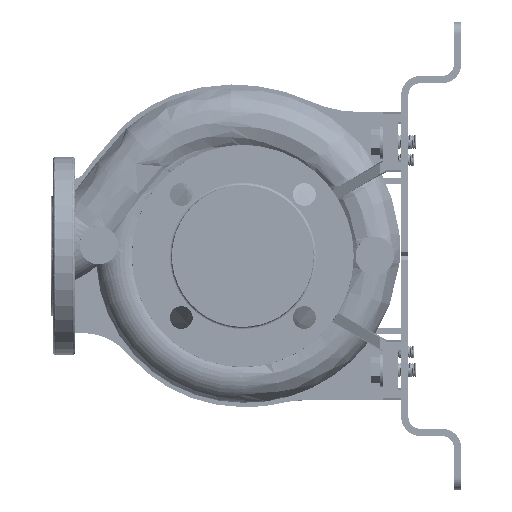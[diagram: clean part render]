
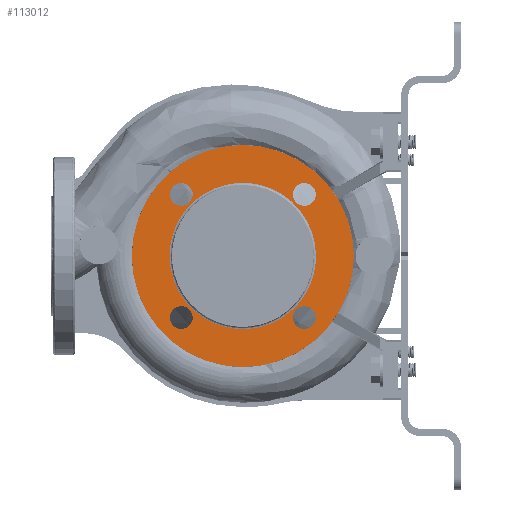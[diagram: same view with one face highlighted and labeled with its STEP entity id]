
A CAD part, left-side view. The second image highlights one B-rep face of the part: STEP entity #113012.
In plain terms, the highlighted planar face has unit normal (-1, 0, 0).
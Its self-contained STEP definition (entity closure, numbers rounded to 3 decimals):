
#1145 = CARTESIAN_POINT ( 'NONE',  ( -35.097, 159.44, 121.134 ) ) ;
#5667 = DIRECTION ( 'NONE',  ( 0., 0., 1. ) ) ;
#11057 = CARTESIAN_POINT ( 'NONE',  ( -35.097, 4.83, 149.524 ) ) ;
#11136 = CARTESIAN_POINT ( 'NONE',  ( -35.097, 47.175, 191.869 ) ) ;
#12019 = PLANE ( 'NONE',  #127718 ) ;
#13544 = EDGE_CURVE ( 'NONE', #176462, #171194, #168743, .T. ) ;
#15007 = VERTEX_POINT ( 'NONE', #26395 ) ;
#15006 = DIRECTION ( 'NONE',  ( 0., 0., 1. ) ) ;
#18623 = EDGE_CURVE ( 'NONE', #177413, #123810, #33420, .T. ) ;
#21295 = DIRECTION ( 'NONE',  ( -1., 0., 0. ) ) ;
#23398 = CARTESIAN_POINT ( 'NONE',  ( -35.097, 47.175, 294.4 ) ) ;
#23610 = CIRCLE ( 'NONE', #29788, 92.5 ) ;
#23774 = EDGE_LOOP ( 'NONE', ( #167048, #160127 ) ) ;
#25222 = CIRCLE ( 'NONE', #65606, 92.5 ) ;
#26223 = CARTESIAN_POINT ( 'NONE',  ( -35.097, 149.705, 182.369 ) ) ;
#26395 = CARTESIAN_POINT ( 'NONE',  ( -35.097, 37.44, 243.134 ) ) ;
#29502 = CARTESIAN_POINT ( 'NONE',  ( -35.097, 159.44, 243.134 ) ) ;
#29788 = AXIS2_PLACEMENT_3D ( 'NONE', #139458, #21295, #5667 ) ;
#30030 = EDGE_CURVE ( 'NONE', #141294, #175882, #23610, .T. ) ;
#30798 =( BOUNDED_CURVE ( )  B_SPLINE_CURVE ( 3, ( #90875, #31306, #104554, #164180 ),
 .UNSPECIFIED., .F., .F. ) 
 B_SPLINE_CURVE_WITH_KNOTS ( ( 4, 4 ),
 ( 0., 1. ),
 .UNSPECIFIED. ) 
 CURVE ( )  GEOMETRIC_REPRESENTATION_ITEM ( )  RATIONAL_B_SPLINE_CURVE ( ( 0.957, 0.319, 0.319, 0.957 ) ) 
 REPRESENTATION_ITEM ( '' )  );
#31306 = CARTESIAN_POINT ( 'NONE',  ( -35.097, 37.44, 365.134 ) ) ;
#33420 = CIRCLE ( 'NONE', #105062, 9.5 ) ;
#35533 = VERTEX_POINT ( 'NONE', #113604 ) ;
#37062 = CARTESIAN_POINT ( 'NONE',  ( -35.097, 47.175, 303.9 ) ) ;
#37470 = FACE_BOUND ( 'NONE', #67839, .T. ) ;
#39861 = DIRECTION ( 'NONE',  ( 0., 0., 1. ) ) ;
#41771 = AXIS2_PLACEMENT_3D ( 'NONE', #124290, #48205, #91220 ) ;
#45906 = ORIENTED_EDGE ( 'NONE', *, *, #93528, .F. ) ;
#48205 = DIRECTION ( 'NONE',  ( -1., 0., 0. ) ) ;
#48209 = ORIENTED_EDGE ( 'NONE', *, *, #124074, .F. ) ;
#48717 = CARTESIAN_POINT ( 'NONE',  ( -35.097, 149.705, 294.4 ) ) ;
#51123 = EDGE_LOOP ( 'NONE', ( #45906, #125294 ) ) ;
#53613 = DIRECTION ( 'NONE',  ( -1., 0., 0. ) ) ;
#54744 = CIRCLE ( 'NONE', #145254, 9.5 ) ;
#55461 = CARTESIAN_POINT ( 'NONE',  ( -35.097, 98.44, 243.134 ) ) ;
#55960 = FACE_BOUND ( 'NONE', #23774, .T. ) ;
#58237 = EDGE_CURVE ( 'NONE', #118104, #35533, #187543, .T. ) ;
#63523 = CARTESIAN_POINT ( 'NONE',  ( -35.097, 149.705, 191.869 ) ) ;
#64206 = EDGE_CURVE ( 'NONE', #171194, #176462, #89239, .T. ) ;
#65606 = AXIS2_PLACEMENT_3D ( 'NONE', #55461, #114050, #39861 ) ;
#67580 = AXIS2_PLACEMENT_3D ( 'NONE', #125557, #109978, #96291 ) ;
#67839 = EDGE_LOOP ( 'NONE', ( #127203, #136970 ) ) ;
#70116 =( BOUNDED_CURVE ( )  B_SPLINE_CURVE ( 3, ( #29502, #1145, #118313, #75304 ),
 .UNSPECIFIED., .F., .F. ) 
 B_SPLINE_CURVE_WITH_KNOTS ( ( 4, 4 ),
 ( 0., 1. ),
 .UNSPECIFIED. ) 
 CURVE ( )  GEOMETRIC_REPRESENTATION_ITEM ( )  RATIONAL_B_SPLINE_CURVE ( ( 0.957, 0.319, 0.319, 0.957 ) ) 
 REPRESENTATION_ITEM ( '' )  );
#72629 = DIRECTION ( 'NONE',  ( -1., 0., 0. ) ) ;
#75304 = CARTESIAN_POINT ( 'NONE',  ( -35.097, 37.44, 243.134 ) ) ;
#79113 = DIRECTION ( 'NONE',  ( -1., 0., 0. ) ) ;
#80787 = VERTEX_POINT ( 'NONE', #136966 ) ;
#84539 = AXIS2_PLACEMENT_3D ( 'NONE', #23398, #146380, #176701 ) ;
#89239 = CIRCLE ( 'NONE', #182786, 9.5 ) ;
#90875 = CARTESIAN_POINT ( 'NONE',  ( -35.097, 37.44, 243.134 ) ) ;
#91220 = DIRECTION ( 'NONE',  ( 0., 0., 1. ) ) ;
#92833 = DIRECTION ( 'NONE',  ( 0., 0., 1. ) ) ;
#93528 = EDGE_CURVE ( 'NONE', #80787, #125620, #94714, .T. ) ;
#94714 = CIRCLE ( 'NONE', #41771, 9.5 ) ;
#96291 = DIRECTION ( 'NONE',  ( 0., 0., 1. ) ) ;
#98017 = CARTESIAN_POINT ( 'NONE',  ( -35.097, 47.175, 191.869 ) ) ;
#100881 = FACE_BOUND ( 'NONE', #155552, .T. ) ;
#104554 = CARTESIAN_POINT ( 'NONE',  ( -35.097, 159.44, 365.134 ) ) ;
#105062 = AXIS2_PLACEMENT_3D ( 'NONE', #63523, #79113, #92833 ) ;
#109223 = DIRECTION ( 'NONE',  ( 0., 0., 1. ) ) ;
#109978 = DIRECTION ( 'NONE',  ( -1., 0., 0. ) ) ;
#112368 = EDGE_CURVE ( 'NONE', #175882, #141294, #25222, .T. ) ;
#113012 = ADVANCED_FACE ( 'NONE', ( #37470, #171256, #100881, #55960, #174189, #188873 ), #12019, .F. ) ;
#113604 = CARTESIAN_POINT ( 'NONE',  ( -35.097, 47.175, 182.369 ) ) ;
#114050 = DIRECTION ( 'NONE',  ( -1., 0., 0. ) ) ;
#114285 = CIRCLE ( 'NONE', #67580, 9.5 ) ;
#115523 = DIRECTION ( 'NONE',  ( 1., 0., 0. ) ) ;
#118104 = VERTEX_POINT ( 'NONE', #172912 ) ;
#118313 = CARTESIAN_POINT ( 'NONE',  ( -35.097, 37.44, 121.134 ) ) ;
#121735 = ORIENTED_EDGE ( 'NONE', *, *, #112368, .T. ) ;
#122489 = EDGE_CURVE ( 'NONE', #125620, #80787, #182556, .T. ) ;
#123810 = VERTEX_POINT ( 'NONE', #26223 ) ;
#124074 = EDGE_CURVE ( 'NONE', #123810, #177413, #114285, .T. ) ;
#124290 = CARTESIAN_POINT ( 'NONE',  ( -35.097, 149.705, 294.4 ) ) ;
#125294 = ORIENTED_EDGE ( 'NONE', *, *, #122489, .F. ) ;
#125557 = CARTESIAN_POINT ( 'NONE',  ( -35.097, 149.705, 191.869 ) ) ;
#125620 = VERTEX_POINT ( 'NONE', #175887 ) ;
#125873 = CARTESIAN_POINT ( 'NONE',  ( -35.097, 47.175, 294.4 ) ) ;
#127203 = ORIENTED_EDGE ( 'NONE', *, *, #157715, .F. ) ;
#127718 = AXIS2_PLACEMENT_3D ( 'NONE', #11057, #115523, #187891 ) ;
#128158 = CARTESIAN_POINT ( 'NONE',  ( -35.097, 159.44, 243.134 ) ) ;
#128222 = AXIS2_PLACEMENT_3D ( 'NONE', #11136, #72629, #15006 ) ;
#129933 = AXIS2_PLACEMENT_3D ( 'NONE', #48717, #154205, #109223 ) ;
#136966 = CARTESIAN_POINT ( 'NONE',  ( -35.097, 149.705, 303.9 ) ) ;
#136970 = ORIENTED_EDGE ( 'NONE', *, *, #179878, .F. ) ;
#139458 = CARTESIAN_POINT ( 'NONE',  ( -35.097, 98.44, 243.134 ) ) ;
#141294 = VERTEX_POINT ( 'NONE', #176767 ) ;
#142324 = VERTEX_POINT ( 'NONE', #128158 ) ;
#145254 = AXIS2_PLACEMENT_3D ( 'NONE', #98017, #157655, #173274 ) ;
#146380 = DIRECTION ( 'NONE',  ( -1., 0., 0. ) ) ;
#154205 = DIRECTION ( 'NONE',  ( -1., 0., 0. ) ) ;
#154453 = ORIENTED_EDGE ( 'NONE', *, *, #64206, .F. ) ;
#155552 = EDGE_LOOP ( 'NONE', ( #167193, #48209 ) ) ;
#157517 = CARTESIAN_POINT ( 'NONE',  ( -35.097, 149.705, 201.369 ) ) ;
#157655 = DIRECTION ( 'NONE',  ( -1., 0., 0. ) ) ;
#157715 = EDGE_CURVE ( 'NONE', #142324, #15007, #70116, .T. ) ;
#160127 = ORIENTED_EDGE ( 'NONE', *, *, #192144, .F. ) ;
#163068 = ORIENTED_EDGE ( 'NONE', *, *, #30030, .T. ) ;
#164180 = CARTESIAN_POINT ( 'NONE',  ( -35.097, 159.44, 243.134 ) ) ;
#167048 = ORIENTED_EDGE ( 'NONE', *, *, #58237, .F. ) ;
#167193 = ORIENTED_EDGE ( 'NONE', *, *, #18623, .F. ) ;
#168743 = CIRCLE ( 'NONE', #84539, 9.5 ) ;
#170896 = CARTESIAN_POINT ( 'NONE',  ( -35.097, 47.175, 284.9 ) ) ;
#171194 = VERTEX_POINT ( 'NONE', #37062 ) ;
#171256 = FACE_BOUND ( 'NONE', #51123, .T. ) ;
#171941 = ORIENTED_EDGE ( 'NONE', *, *, #13544, .F. ) ;
#172912 = CARTESIAN_POINT ( 'NONE',  ( -35.097, 47.175, 201.369 ) ) ;
#173274 = DIRECTION ( 'NONE',  ( 0., 0., 1. ) ) ;
#173410 = EDGE_LOOP ( 'NONE', ( #154453, #171941 ) ) ;
#174189 = FACE_BOUND ( 'NONE', #173410, .T. ) ;
#175882 = VERTEX_POINT ( 'NONE', #179124 ) ;
#175887 = CARTESIAN_POINT ( 'NONE',  ( -35.097, 149.705, 284.9 ) ) ;
#176462 = VERTEX_POINT ( 'NONE', #170896 ) ;
#176701 = DIRECTION ( 'NONE',  ( 0., 0., 1. ) ) ;
#176767 = CARTESIAN_POINT ( 'NONE',  ( -35.097, 98.44, 335.634 ) ) ;
#177413 = VERTEX_POINT ( 'NONE', #157517 ) ;
#179124 = CARTESIAN_POINT ( 'NONE',  ( -35.097, 98.44, 150.634 ) ) ;
#179878 = EDGE_CURVE ( 'NONE', #15007, #142324, #30798, .T. ) ;
#182556 = CIRCLE ( 'NONE', #129933, 9.5 ) ;
#182786 = AXIS2_PLACEMENT_3D ( 'NONE', #125873, #53613, #187470 ) ;
#187470 = DIRECTION ( 'NONE',  ( 0., 0., 1. ) ) ;
#187543 = CIRCLE ( 'NONE', #128222, 9.5 ) ;
#187891 = DIRECTION ( 'NONE',  ( 0., 1., 0. ) ) ;
#188024 = EDGE_LOOP ( 'NONE', ( #163068, #121735 ) ) ;
#188873 = FACE_OUTER_BOUND ( 'NONE', #188024, .T. ) ;
#192144 = EDGE_CURVE ( 'NONE', #35533, #118104, #54744, .T. ) ;
